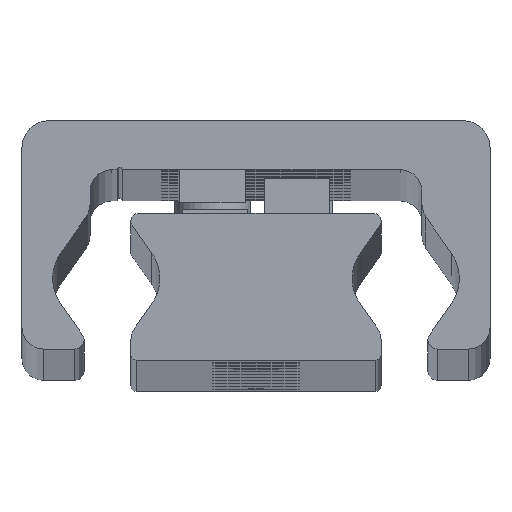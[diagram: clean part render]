
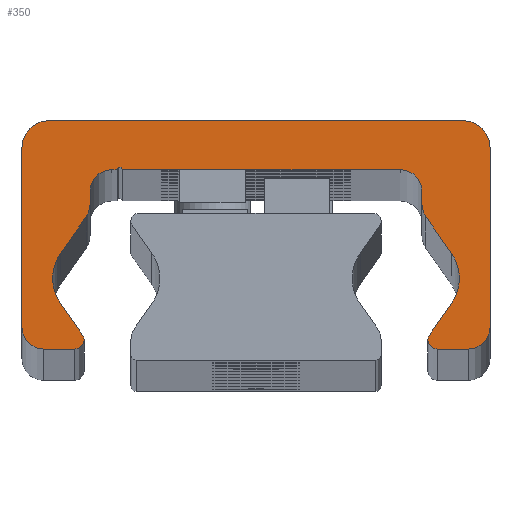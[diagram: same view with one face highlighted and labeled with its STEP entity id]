
A CAD part, top view. The second image highlights one B-rep face of the part: STEP entity #350.
In plain terms, the highlighted planar face has unit normal (0, 0, 1).
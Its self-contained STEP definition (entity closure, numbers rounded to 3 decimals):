
#350=ADVANCED_FACE('',(#1012),#1013,.T.);
#1012=FACE_OUTER_BOUND('',#1675,.T.);
#1013=PLANE('',#1676);
#1675=EDGE_LOOP('',(#3890,#3891,#3892,#3893,#3894,#3895,#3896,#3897,#3898,#3899,#3900,#3901,#3902,#3903,#3904,#3905,#3906,#3907,#3908,#3909,#3910,#3911,#3912,#3913,#3914,#3915,#3916,#3917,#3918,#3919));
#1676=AXIS2_PLACEMENT_3D('',#3920,#3921,#3922);
#3890=ORIENTED_EDGE('',*,*,#4349,.F.);
#3891=ORIENTED_EDGE('',*,*,#4662,.F.);
#3892=ORIENTED_EDGE('',*,*,#4335,.F.);
#3893=ORIENTED_EDGE('',*,*,#4661,.F.);
#3894=ORIENTED_EDGE('',*,*,#4657,.F.);
#3895=ORIENTED_EDGE('',*,*,#4654,.F.);
#3896=ORIENTED_EDGE('',*,*,#4651,.F.);
#3897=ORIENTED_EDGE('',*,*,#4648,.F.);
#3898=ORIENTED_EDGE('',*,*,#4645,.F.);
#3899=ORIENTED_EDGE('',*,*,#4642,.F.);
#3900=ORIENTED_EDGE('',*,*,#4639,.F.);
#3901=ORIENTED_EDGE('',*,*,#4636,.F.);
#3902=ORIENTED_EDGE('',*,*,#4633,.F.);
#3903=ORIENTED_EDGE('',*,*,#4630,.F.);
#3904=ORIENTED_EDGE('',*,*,#4341,.F.);
#3905=ORIENTED_EDGE('',*,*,#4628,.F.);
#3906=ORIENTED_EDGE('',*,*,#4343,.F.);
#3907=ORIENTED_EDGE('',*,*,#4627,.F.);
#3908=ORIENTED_EDGE('',*,*,#4623,.F.);
#3909=ORIENTED_EDGE('',*,*,#4620,.F.);
#3910=ORIENTED_EDGE('',*,*,#4617,.F.);
#3911=ORIENTED_EDGE('',*,*,#4614,.F.);
#3912=ORIENTED_EDGE('',*,*,#4611,.F.);
#3913=ORIENTED_EDGE('',*,*,#4608,.F.);
#3914=ORIENTED_EDGE('',*,*,#4605,.F.);
#3915=ORIENTED_EDGE('',*,*,#4602,.F.);
#3916=ORIENTED_EDGE('',*,*,#4599,.F.);
#3917=ORIENTED_EDGE('',*,*,#4596,.F.);
#3918=ORIENTED_EDGE('',*,*,#4593,.F.);
#3919=ORIENTED_EDGE('',*,*,#4590,.F.);
#3920=CARTESIAN_POINT('',(-0.023,14.187,1650.0));
#3921=DIRECTION('',(0.0,0.0,1.0));
#3922=DIRECTION('',(1.0,0.0,0.0));
#4335=EDGE_CURVE('',#5266,#5269,#5270,.T.);
#4341=EDGE_CURVE('',#5279,#5275,#5281,.T.);
#4343=EDGE_CURVE('',#5282,#5285,#5286,.T.);
#4349=EDGE_CURVE('',#5295,#5291,#5297,.T.);
#4590=EDGE_CURVE('',#5291,#5684,#5685,.T.);
#4593=EDGE_CURVE('',#5684,#5689,#5690,.T.);
#4596=EDGE_CURVE('',#5689,#5694,#5695,.T.);
#4599=EDGE_CURVE('',#5694,#5699,#5700,.T.);
#4602=EDGE_CURVE('',#5699,#5704,#5705,.T.);
#4605=EDGE_CURVE('',#5704,#5709,#5710,.T.);
#4608=EDGE_CURVE('',#5709,#5714,#5715,.T.);
#4611=EDGE_CURVE('',#5714,#5719,#5720,.T.);
#4614=EDGE_CURVE('',#5719,#5724,#5725,.T.);
#4617=EDGE_CURVE('',#5724,#5729,#5730,.T.);
#4620=EDGE_CURVE('',#5729,#5734,#5735,.T.);
#4623=EDGE_CURVE('',#5734,#5739,#5740,.T.);
#4627=EDGE_CURVE('',#5739,#5282,#5745,.T.);
#4628=EDGE_CURVE('',#5285,#5279,#5746,.T.);
#4630=EDGE_CURVE('',#5275,#5748,#5749,.T.);
#4633=EDGE_CURVE('',#5748,#5753,#5754,.T.);
#4636=EDGE_CURVE('',#5753,#5758,#5759,.T.);
#4639=EDGE_CURVE('',#5758,#5763,#5764,.T.);
#4642=EDGE_CURVE('',#5763,#5768,#5769,.T.);
#4645=EDGE_CURVE('',#5768,#5773,#5774,.T.);
#4648=EDGE_CURVE('',#5773,#5778,#5779,.T.);
#4651=EDGE_CURVE('',#5778,#5783,#5784,.T.);
#4654=EDGE_CURVE('',#5783,#5788,#5789,.T.);
#4657=EDGE_CURVE('',#5788,#5793,#5794,.T.);
#4661=EDGE_CURVE('',#5793,#5266,#5799,.T.);
#4662=EDGE_CURVE('',#5269,#5295,#5800,.T.);
#5266=VERTEX_POINT('',#6590);
#5269=VERTEX_POINT('',#6594);
#5270=CIRCLE('',#6595,0.85);
#5275=VERTEX_POINT('',#6601);
#5279=VERTEX_POINT('',#6606);
#5281=CIRCLE('',#6609,0.85);
#5282=VERTEX_POINT('',#6610);
#5285=VERTEX_POINT('',#6614);
#5286=CIRCLE('',#6615,4.);
#5291=VERTEX_POINT('',#6621);
#5295=VERTEX_POINT('',#6626);
#5297=CIRCLE('',#6629,4.);
#5684=VERTEX_POINT('',#7126);
#5685=CIRCLE('',#7127,4.);
#5689=VERTEX_POINT('',#7132);
#5690=LINE('',#7133,#7134);
#5694=VERTEX_POINT('',#7140);
#5695=CIRCLE('',#7141,2.);
#5699=VERTEX_POINT('',#7146);
#5700=LINE('',#7147,#7148);
#5704=VERTEX_POINT('',#7154);
#5705=CIRCLE('',#7155,2.0);
#5709=VERTEX_POINT('',#7160);
#5710=LINE('',#7161,#7162);
#5714=VERTEX_POINT('',#7168);
#5715=CIRCLE('',#7169,0.25);
#5719=VERTEX_POINT('',#7174);
#5720=LINE('',#7175,#7176);
#5724=VERTEX_POINT('',#7182);
#5725=CIRCLE('',#7183,2.0);
#5729=VERTEX_POINT('',#7188);
#5730=LINE('',#7189,#7190);
#5734=VERTEX_POINT('',#7196);
#5735=CIRCLE('',#7197,2.0);
#5739=VERTEX_POINT('',#7202);
#5740=LINE('',#7203,#7204);
#5745=CIRCLE('',#7211,4.);
#5746=LINE('',#7212,#7213);
#5748=VERTEX_POINT('',#7216);
#5749=CIRCLE('',#7217,0.85);
#5753=VERTEX_POINT('',#7222);
#5754=LINE('',#7223,#7224);
#5758=VERTEX_POINT('',#7230);
#5759=CIRCLE('',#7231,2.);
#5763=VERTEX_POINT('',#7236);
#5764=LINE('',#7237,#7238);
#5768=VERTEX_POINT('',#7244);
#5769=CIRCLE('',#7245,2.5);
#5773=VERTEX_POINT('',#7250);
#5774=LINE('',#7251,#7252);
#5778=VERTEX_POINT('',#7258);
#5779=CIRCLE('',#7259,2.5);
#5783=VERTEX_POINT('',#7264);
#5784=LINE('',#7265,#7266);
#5788=VERTEX_POINT('',#7272);
#5789=CIRCLE('',#7273,2.);
#5793=VERTEX_POINT('',#7278);
#5794=LINE('',#7279,#7280);
#5799=CIRCLE('',#7287,0.85);
#5800=LINE('',#7288,#7289);
#6590=CARTESIAN_POINT('',(15.8,1.859,1650.0));
#6594=CARTESIAN_POINT('',(15.922,2.298,1650.0));
#6595=AXIS2_PLACEMENT_3D('',#8055,#8056,#8057);
#6601=CARTESIAN_POINT('',(-15.8,1.859,1650.0));
#6606=CARTESIAN_POINT('',(-15.922,2.298,1650.0));
#6609=AXIS2_PLACEMENT_3D('',#8067,#8068,#8069);
#6610=CARTESIAN_POINT('',(-18.688,7.509,1650.0));
#6614=CARTESIAN_POINT('',(-17.964,5.214,1650.0));
#6615=AXIS2_PLACEMENT_3D('',#8071,#8072,#8073);
#6621=CARTESIAN_POINT('',(18.688,7.509,1650.0));
#6626=CARTESIAN_POINT('',(17.964,5.214,1650.0));
#6629=AXIS2_PLACEMENT_3D('',#8083,#8084,#8085);
#7126=CARTESIAN_POINT('',(17.964,9.803,1650.0));
#7127=AXIS2_PLACEMENT_3D('',#8586,#8587,#8588);
#7132=CARTESIAN_POINT('',(15.612,13.163,1650.0));
#7133=CARTESIAN_POINT('',(15.612,13.163,1650.0));
#7134=VECTOR('',#8593,1.0);
#7140=CARTESIAN_POINT('',(15.25,14.31,1650.0));
#7141=AXIS2_PLACEMENT_3D('',#8596,#8597,#8598);
#7146=CARTESIAN_POINT('',(15.25,15.509,1650.0));
#7147=CARTESIAN_POINT('',(15.25,15.509,1650.0));
#7148=VECTOR('',#8603,1.0);
#7154=CARTESIAN_POINT('',(13.25,17.509,1650.0));
#7155=AXIS2_PLACEMENT_3D('',#8606,#8607,#8608);
#7160=CARTESIAN_POINT('',(-12.25,17.509,1650.0));
#7161=CARTESIAN_POINT('',(-12.25,17.509,1650.0));
#7162=VECTOR('',#8613,1.0);
#7168=CARTESIAN_POINT('',(-12.75,17.509,1650.0));
#7169=AXIS2_PLACEMENT_3D('',#8616,#8617,#8618);
#7174=CARTESIAN_POINT('',(-13.25,17.509,1650.0));
#7175=CARTESIAN_POINT('',(-13.25,17.509,1650.0));
#7176=VECTOR('',#8623,1.0);
#7182=CARTESIAN_POINT('',(-15.25,15.509,1650.0));
#7183=AXIS2_PLACEMENT_3D('',#8626,#8627,#8628);
#7188=CARTESIAN_POINT('',(-15.25,14.31,1650.0));
#7189=CARTESIAN_POINT('',(-15.25,14.31,1650.0));
#7190=VECTOR('',#8633,1.0);
#7196=CARTESIAN_POINT('',(-15.612,13.163,1650.0));
#7197=AXIS2_PLACEMENT_3D('',#8636,#8637,#8638);
#7202=CARTESIAN_POINT('',(-17.964,9.803,1650.0));
#7203=CARTESIAN_POINT('',(-17.964,9.803,1650.0));
#7204=VECTOR('',#8643,1.0);
#7211=AXIS2_PLACEMENT_3D('',#8649,#8650,#8651);
#7212=CARTESIAN_POINT('',(-15.922,2.298,1650.0));
#7213=VECTOR('',#8652,1.0);
#7216=CARTESIAN_POINT('',(-16.65,1.009,1650.0));
#7217=AXIS2_PLACEMENT_3D('',#8654,#8655,#8656);
#7222=CARTESIAN_POINT('',(-19.5,1.009,1650.0));
#7223=CARTESIAN_POINT('',(-19.5,1.009,1650.0));
#7224=VECTOR('',#8661,1.0);
#7230=CARTESIAN_POINT('',(-21.5,3.009,1650.0));
#7231=AXIS2_PLACEMENT_3D('',#8664,#8665,#8666);
#7236=CARTESIAN_POINT('',(-21.5,19.509,1650.0));
#7237=CARTESIAN_POINT('',(-21.5,19.509,1650.0));
#7238=VECTOR('',#8671,1.0);
#7244=CARTESIAN_POINT('',(-19.0,22.009,1650.0));
#7245=AXIS2_PLACEMENT_3D('',#8674,#8675,#8676);
#7250=CARTESIAN_POINT('',(19.0,22.009,1650.0));
#7251=CARTESIAN_POINT('',(19.0,22.009,1650.0));
#7252=VECTOR('',#8681,1.0);
#7258=CARTESIAN_POINT('',(21.5,19.509,1650.0));
#7259=AXIS2_PLACEMENT_3D('',#8684,#8685,#8686);
#7264=CARTESIAN_POINT('',(21.5,3.009,1650.0));
#7265=CARTESIAN_POINT('',(21.5,3.009,1650.0));
#7266=VECTOR('',#8691,1.0);
#7272=CARTESIAN_POINT('',(19.5,1.009,1650.0));
#7273=AXIS2_PLACEMENT_3D('',#8694,#8695,#8696);
#7278=CARTESIAN_POINT('',(16.65,1.009,1650.0));
#7279=CARTESIAN_POINT('',(16.65,1.009,1650.0));
#7280=VECTOR('',#8701,1.0);
#7287=AXIS2_PLACEMENT_3D('',#8707,#8708,#8709);
#7288=CARTESIAN_POINT('',(17.964,5.214,1650.0));
#7289=VECTOR('',#8710,1.0);
#8055=CARTESIAN_POINT('',(16.65,1.859,1650.0));
#8056=DIRECTION('',(0.0,0.0,-1.0));
#8057=DIRECTION('',(1.0,0.0,0.0));
#8067=CARTESIAN_POINT('',(-16.65,1.859,1650.0));
#8068=DIRECTION('',(0.0,0.0,-1.0));
#8069=DIRECTION('',(1.0,0.0,0.0));
#8071=CARTESIAN_POINT('',(-14.688,7.509,1650.0));
#8072=DIRECTION('',(0.0,0.0,1.0));
#8073=DIRECTION('',(1.0,0.0,0.0));
#8083=CARTESIAN_POINT('',(14.688,7.509,1650.0));
#8084=DIRECTION('',(0.0,0.0,1.0));
#8085=DIRECTION('',(1.0,0.0,0.0));
#8586=CARTESIAN_POINT('',(14.688,7.509,1650.0));
#8587=DIRECTION('',(0.0,0.0,1.0));
#8588=DIRECTION('',(1.0,0.0,0.0));
#8593=DIRECTION('',(-0.574,0.819,0.0));
#8596=CARTESIAN_POINT('',(17.25,14.31,1650.0));
#8597=DIRECTION('',(0.0,0.0,-1.0));
#8598=DIRECTION('',(1.0,0.0,0.0));
#8603=DIRECTION('',(0.0,1.0,0.0));
#8606=CARTESIAN_POINT('',(13.25,15.509,1650.0));
#8607=DIRECTION('',(0.0,0.0,1.0));
#8608=DIRECTION('',(1.0,0.0,0.0));
#8613=DIRECTION('',(-1.0,-0.0,-0.0));
#8616=CARTESIAN_POINT('',(-12.5,17.509,1650.0));
#8617=DIRECTION('',(0.0,0.0,1.0));
#8618=DIRECTION('',(1.0,0.0,0.0));
#8623=DIRECTION('',(-1.0,-0.0,-0.0));
#8626=CARTESIAN_POINT('',(-13.25,15.509,1650.0));
#8627=DIRECTION('',(0.0,0.0,1.0));
#8628=DIRECTION('',(1.0,0.0,0.0));
#8633=DIRECTION('',(-0.0,-1.0,-0.0));
#8636=CARTESIAN_POINT('',(-17.25,14.31,1650.0));
#8637=DIRECTION('',(0.0,0.0,-1.0));
#8638=DIRECTION('',(1.0,0.0,0.0));
#8643=DIRECTION('',(-0.574,-0.819,-0.0));
#8649=CARTESIAN_POINT('',(-14.688,7.509,1650.0));
#8650=DIRECTION('',(0.0,0.0,1.0));
#8651=DIRECTION('',(1.0,0.0,0.0));
#8652=DIRECTION('',(0.574,-0.819,0.0));
#8654=CARTESIAN_POINT('',(-16.65,1.859,1650.0));
#8655=DIRECTION('',(0.0,0.0,-1.0));
#8656=DIRECTION('',(1.0,0.0,0.0));
#8661=DIRECTION('',(-1.0,-0.0,-0.0));
#8664=CARTESIAN_POINT('',(-19.5,3.009,1650.0));
#8665=DIRECTION('',(0.0,0.0,-1.0));
#8666=DIRECTION('',(1.0,0.0,0.0));
#8671=DIRECTION('',(0.0,1.0,0.0));
#8674=CARTESIAN_POINT('',(-19.0,19.509,1650.0));
#8675=DIRECTION('',(0.0,0.0,-1.0));
#8676=DIRECTION('',(1.0,0.0,0.0));
#8681=DIRECTION('',(1.0,0.0,0.0));
#8684=CARTESIAN_POINT('',(19.0,19.509,1650.0));
#8685=DIRECTION('',(0.0,0.0,-1.0));
#8686=DIRECTION('',(1.0,0.0,0.0));
#8691=DIRECTION('',(-0.0,-1.0,-0.0));
#8694=CARTESIAN_POINT('',(19.5,3.009,1650.0));
#8695=DIRECTION('',(0.0,0.0,-1.0));
#8696=DIRECTION('',(1.0,0.0,0.0));
#8701=DIRECTION('',(-1.0,-0.0,-0.0));
#8707=CARTESIAN_POINT('',(16.65,1.859,1650.0));
#8708=DIRECTION('',(0.0,0.0,-1.0));
#8709=DIRECTION('',(1.0,0.0,0.0));
#8710=DIRECTION('',(0.574,0.819,0.0));
